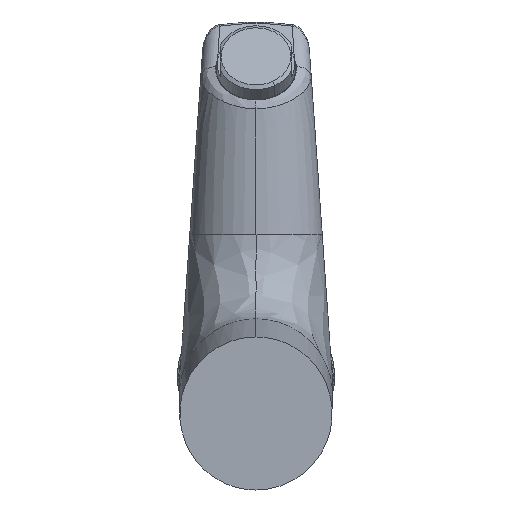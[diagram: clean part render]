
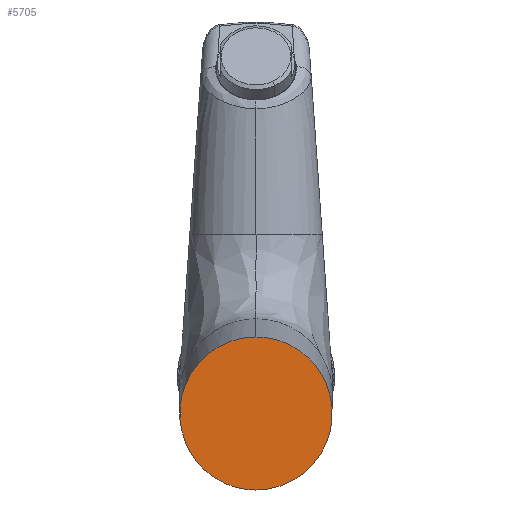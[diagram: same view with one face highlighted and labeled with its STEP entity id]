
A CAD part, front view. The second image highlights one B-rep face of the part: STEP entity #5705.
In plain terms, the highlighted planar face has unit normal (0, -1, 0).
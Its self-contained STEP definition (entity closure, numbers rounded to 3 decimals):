
#686 = CARTESIAN_POINT ( 'NONE',  ( 0., 0., 23.59 ) ) ;
#1635 = FACE_OUTER_BOUND ( 'NONE', #7214, .T. ) ;
#1645 = ORIENTED_EDGE ( 'NONE', *, *, #13038, .T. ) ;
#1828 = ORIENTED_EDGE ( 'NONE', *, *, #5890, .T. ) ;
#2160 = CARTESIAN_POINT ( 'NONE',  ( -47.015, 0., 23.59 ) ) ;
#3156 = VERTEX_POINT ( 'NONE', #6587 ) ;
#3835 = VERTEX_POINT ( 'NONE', #6938 ) ;
#4220 = PLANE ( 'NONE',  #6558 ) ;
#5297 = DIRECTION ( 'NONE',  ( 0., 1., 0. ) ) ;
#5505 = CARTESIAN_POINT ( 'NONE',  ( 0., 0., -23.605 ) ) ;
#5705 = ADVANCED_FACE ( 'NONE', ( #1635 ), #4220, .F. ) ;
#5890 = EDGE_CURVE ( 'NONE', #3835, #3156, #11353, .T. ) ;
#6408 = DIRECTION ( 'NONE',  ( 0., 0., 1. ) ) ;
#6558 = AXIS2_PLACEMENT_3D ( 'NONE', #11814, #5297, #6408 ) ;
#6587 = CARTESIAN_POINT ( 'NONE',  ( 0., 0., 23.59 ) ) ;
#6938 = CARTESIAN_POINT ( 'NONE',  ( 0., 0., -23.605 ) ) ;
#7214 = EDGE_LOOP ( 'NONE', ( #1828, #1645 ) ) ;
#9304 = CARTESIAN_POINT ( 'NONE',  ( 47.015, 0., 23.59 ) ) ;
#9336 =( BOUNDED_CURVE ( )  B_SPLINE_CURVE ( 3, ( #686, #2160, #14039, #5505 ),
 .UNSPECIFIED., .F., .F. ) 
 B_SPLINE_CURVE_WITH_KNOTS ( ( 4, 4 ),
 ( 3.142, 6.283 ),
 .UNSPECIFIED. ) 
 CURVE ( )  GEOMETRIC_REPRESENTATION_ITEM ( )  RATIONAL_B_SPLINE_CURVE ( ( 1., 0.333, 0.333, 1. ) ) 
 REPRESENTATION_ITEM ( '' )  );
#11353 =( BOUNDED_CURVE ( )  B_SPLINE_CURVE ( 3, ( #11440, #11530, #9304, #12582 ),
 .UNSPECIFIED., .F., .T. ) 
 B_SPLINE_CURVE_WITH_KNOTS ( ( 4, 4 ),
 ( 0., 3.142 ),
 .UNSPECIFIED. ) 
 CURVE ( )  GEOMETRIC_REPRESENTATION_ITEM ( )  RATIONAL_B_SPLINE_CURVE ( ( 1., 0.333, 0.333, 1. ) ) 
 REPRESENTATION_ITEM ( '' )  );
#11440 = CARTESIAN_POINT ( 'NONE',  ( 0., 0., -23.605 ) ) ;
#11530 = CARTESIAN_POINT ( 'NONE',  ( 47.015, 0., -23.605 ) ) ;
#11814 = CARTESIAN_POINT ( 'NONE',  ( 0., 0., 12.5 ) ) ;
#12582 = CARTESIAN_POINT ( 'NONE',  ( 0., 0., 23.59 ) ) ;
#13038 = EDGE_CURVE ( 'NONE', #3156, #3835, #9336, .T. ) ;
#14039 = CARTESIAN_POINT ( 'NONE',  ( -47.015, 0., -23.605 ) ) ;
